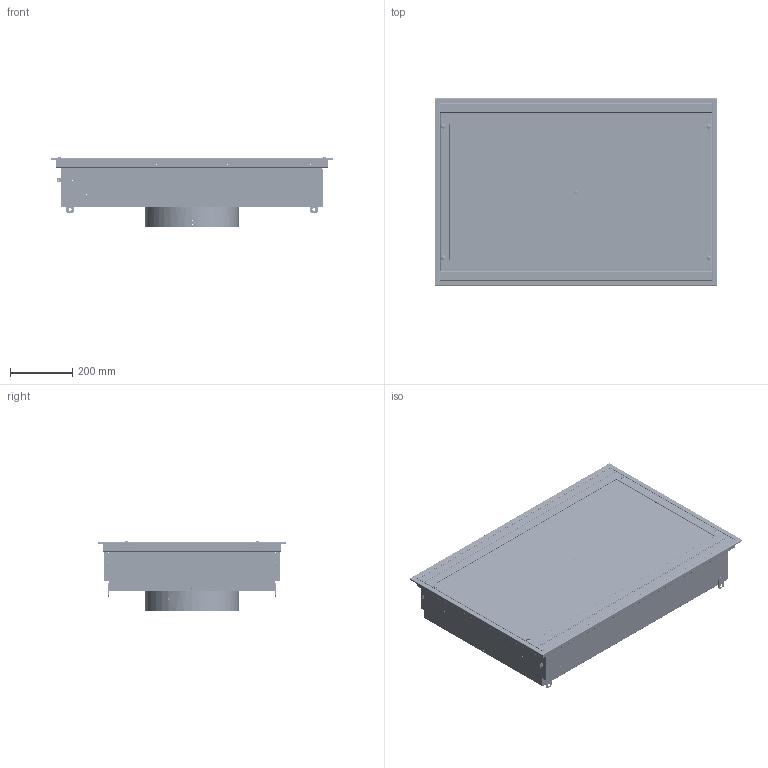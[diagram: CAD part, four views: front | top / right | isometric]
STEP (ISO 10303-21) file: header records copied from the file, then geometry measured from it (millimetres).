
FILE_DESCRIPTION (( 'STEP AP214' ), '1' );
FILE_NAME ('36 X 24_SSLF_LED.STEP', '2025-07-25T18:33:32', ( '' ), ( '' ), 'SwSTEP 2.0', 'SolidWorks 2024', '' );
FILE_SCHEMA (( 'AUTOMOTIVE_DESIGN' ));
Length unit declared in the file: inch
Products named in the file (57): 060525-LFs_C1C1C112_L03; 060525-LFs_FC2B-A1_L03; 060525-LFs_SAFETYCABLE-ASSY_L03; 060525-LFs_P1B1B_L03; 060525-LFs_H1V20_L03; 060525-LFs_FP1B20-A2_L03; 060525-LFs_H1E2_L03; 060525-LFs_R2B1-SUB_L03; 060525-LFs_X6BB_L03; 060525-LFs_K2A2_L03; 060525-LFs_H2E5_L03; 060525-LFs_K2A1_L03; 060525-LFs_H1T3_L03_GROMMET, BLADE; 060525-LFs_H1A2_L03; 060525-LFs_H1D11_L03_91020A530; 060525-LFs_X6BA1_L03; 060525-LFs_PLASTER-SUB_L03; 060525-LFs_R5Z11_L03; 060525-LFs_Light Module-SUB_L03; 060525-LFs_H1E3_L03; 060525-LFs_X6BE_L03; 060525-LFs_FC2B-A4_L03; 060525-LFs_PLENUM-SUB_L03; 060525-LFs_X6BD_L03; 060525-LFs_P1B1B-SUB_L03; 060525-LFs_H1B8_L03; 060525-LFs_H1E1_L03; 060525-LFs_FC2B_L03; 060525-LFs_H1Z24_L03; 060525-LFs_H1F1_L03_1_4 TURN SPRING; 060525-LFs_H1T2_L03; 060525-LFs_FC2B-A3_L03; 36 X 24_SSLF_LED; 060525-LFs_R2B1_L03; 060525-LFs_SSRD_L03; 060525-LFs_H2E1_L03_WELD CLIP; 40º BEVEL FRAME; 060525-LFs_H1V7_L03_WASHER, TEFLON: 0.50"OD x 0.25"ID x 0.025"th; 060525-LFs_FP1B20-A4_L03; 060525-LFs_H1M8_L03_H1M8; 060525-LFs_X6B2_L03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
Assembly tree (104 placements, depth 5):
  36 X 24_SSLF_LED
    060525-LFs_PLASTER-SUB_L03
      060525-LFs_FC2B_L03
        060525-LFs_FC2B-A1_L03
        060525-LFs_FC2B-A2_L03
        060525-LFs_FC2B-A3_L03
        060525-LFs_FC2B-A4_L03
        060525-LFs_H2E2_L03_WELD CLIP, BOB FRAME  x4
        060525-LFs_H2G12_L03  x4
        060525-LFs_H1F1_L03_1_4 TURN SPRING  x4
      060525-LFs_H1V20_L03  x2
      060525-LFs_X6BD_L03  x2
      060525-LFs_H1V10_L03_GROMMET - 0.387"ID; 1_2"HOLE; BLACK  x2
      060525-LFs_Light Module-SUB_L03  x2
        060525-LFs_X6BA1_L03
        060525-LFs_X6BB_L03
        060525-LFs_R5Z11_L03
        060525-LFs_H1M8_L03_H1M8
        060525-LFs_H1B9_L03
        060525-LFs_H1D11_L03_91020A530
        060525-LFs_X6B2_L03
        060525-LFs_H1H42_L03
    060525-LFs_FACE-SUB_L03
      060525-LFs_FP1B-SUB_L03
        060525-LFs_FP1B20-A1_L03
        060525-LFs_FP1B20-A2_L03
        060525-LFs_FP1B20-A3_L03
        060525-LFs_FP1B20-A4_L03
        060525-LFs_H2E1_L03_WELD CLIP; 40º BEVEL FRAME  x4
        060525-LFs_H1E1_L03  x4
        060525-LFs_H1E2_L03  x4
        060525-LFs_SAFETYCABLE-ASSY_L03  x2
          060525-LFs_H1N2_L03
          060525-LFs_H1E3_L03
        060525-LFs_H1Z24_L03
    060525-LFs_PERF-SUB_L03
      060525-LFs_H1T2_L03
      060525-LFs_R2B1-SUB_L03
        060525-LFs_R2B1_L03
    060525-LFs_PLENUM-SUB_L03
      060525-LFs_P1B1B-SUB_L03
        060525-LFs_P1B1B_L03
        060525-LFs_H2E5_L03  x4
        060525-LFs_X6BE_L03  x2
        060525-LFs_H1V20_L03  x2
    060525-LFs_C1C1C112_L03
    060525-LFs_SSRD_L03
      060525-LFs_H1L1_L03  x4
      060525-LFs_BM5D_L03  x2
      060525-LFs_SM2X3_L03
      060525-LFs_SM3X4_L03
      060525-LFs_H1A2_L03
      060525-LFs_H1B4_L03
      060525-LFs_H1V7_L03_WASHER, TEFLON: 0.50"OD x 0.25"ID x 0.025"th  x2
      060525-LFs_K2A2_L03  x2
      060525-LFs_H1T3_L03_GROMMET, BLADE  x2
      060525-LFs_K2A1_L03
      060525-LFs_H1B8_L03
Bounding box: 908.05 x 603.25 x 223.61 mm (x, y, z)
Volume: 1786306.5 mm3; surface area: 4014151.9 mm2
Topology: 143 solids, 143 shells, 7296 faces, 18116 edges, 11483 vertices
Faces by surface type: plane 3907, cylinder 1938, cone 704, torus 496, bspline 233, sphere 18
Entity records: 107572 total; most frequent: CARTESIAN_POINT 29622, ORIENTED_EDGE 15778, DIRECTION 15346, EDGE_CURVE 7889, VECTOR 5274, LINE 5274, VERTEX_POINT 5042, AXIS2_PLACEMENT_3D 5036
